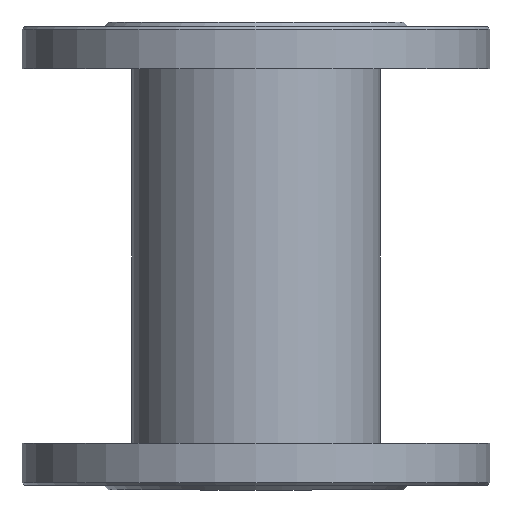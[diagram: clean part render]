
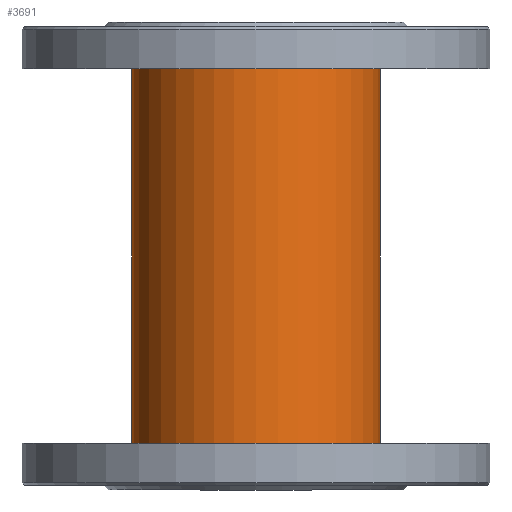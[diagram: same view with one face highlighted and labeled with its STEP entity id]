
A CAD part, front view. The second image highlights one B-rep face of the part: STEP entity #3691.
In plain terms, the highlighted cylindrical face has radius 53 mm (diameter 106 mm), a full revolution.
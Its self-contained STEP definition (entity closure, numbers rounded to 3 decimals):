
#2303=FACE_BOUND('',#5516,.T.);
#2304=FACE_BOUND('',#5517,.T.);
#2305=FACE_BOUND('',#5518,.T.);
#2509=CYLINDRICAL_SURFACE('',#15851,53.);
#2918=CIRCLE('',#15848,53.);
#2919=CIRCLE('',#15850,53.);
#3691=ADVANCED_FACE('',(#2303,#2304,#2305),#2509,.T.);
#5516=EDGE_LOOP('',(#9770));
#5517=EDGE_LOOP('',(#9771,#9772,#9773,#9774));
#5518=EDGE_LOOP('',(#9775));
#6268=B_SPLINE_CURVE_WITH_KNOTS('',3,(#32608,#32609,#32610,#32611,#32612,
#32613,#32614,#32615,#32616,#32617),.UNSPECIFIED.,.F.,.F.,(4,2,2,2,4),(0.,
0.25,0.5,0.75,1.),.UNSPECIFIED.);
#6269=B_SPLINE_CURVE_WITH_KNOTS('',3,(#32621,#32622,#32623,#32624,#32625,
#32626,#32627,#32628,#32629,#32630),.UNSPECIFIED.,.F.,.F.,(4,2,2,2,4),(0.,
0.25,0.5,0.75,1.),.UNSPECIFIED.);
#9770=ORIENTED_EDGE('',*,*,#13023,.F.);
#9771=ORIENTED_EDGE('',*,*,#13024,.F.);
#9772=ORIENTED_EDGE('',*,*,#13025,.T.);
#9773=ORIENTED_EDGE('',*,*,#13026,.F.);
#9774=ORIENTED_EDGE('',*,*,#13027,.T.);
#9775=ORIENTED_EDGE('',*,*,#13022,.F.);
#11194=VERTEX_POINT('',#32601);
#11195=VERTEX_POINT('',#32604);
#11196=VERTEX_POINT('',#32606);
#11197=VERTEX_POINT('',#32607);
#11198=VERTEX_POINT('',#32618);
#11199=VERTEX_POINT('',#32620);
#13022=EDGE_CURVE('',#11194,#11194,#2918,.T.);
#13023=EDGE_CURVE('',#11195,#11195,#2919,.T.);
#13024=EDGE_CURVE('',#11196,#11197,#13931,.T.);
#13025=EDGE_CURVE('',#11196,#11198,#6268,.T.);
#13026=EDGE_CURVE('',#11199,#11198,#13932,.T.);
#13027=EDGE_CURVE('',#11199,#11197,#6269,.T.);
#13931=LINE('',#32605,#14898);
#13932=LINE('',#32619,#14899);
#14898=VECTOR('',#18779,1.);
#14899=VECTOR('',#18780,1.);
#15848=AXIS2_PLACEMENT_3D('',#32600,#18773,#18774);
#15850=AXIS2_PLACEMENT_3D('',#32603,#18777,#18778);
#15851=AXIS2_PLACEMENT_3D('',#32631,#18781,#18782);
#18773=DIRECTION('',(0.,0.,-1.));
#18774=DIRECTION('',(0.,-1.,0.));
#18777=DIRECTION('',(0.,0.,1.));
#18778=DIRECTION('',(0.,-1.,0.));
#18779=DIRECTION('',(0.,0.,1.));
#18780=DIRECTION('',(0.,0.,-1.));
#18781=DIRECTION('',(0.,0.,1.));
#18782=DIRECTION('',(0.,-1.,0.));
#32600=CARTESIAN_POINT('',(-0.016,-32.5,-72.242));
#32601=CARTESIAN_POINT('',(-0.016,-85.5,-72.242));
#32603=CARTESIAN_POINT('',(-0.016,-32.5,87.758));
#32604=CARTESIAN_POINT('',(-0.016,-85.5,87.758));
#32605=CARTESIAN_POINT('',(-14.438,18.5,-2.001));
#32606=CARTESIAN_POINT('',(-14.438,18.5,-7.861));
#32607=CARTESIAN_POINT('',(-14.438,18.5,3.859));
#32608=CARTESIAN_POINT('',(-14.438,18.5,-7.861));
#32609=CARTESIAN_POINT('',(-13.247,18.837,-10.699));
#32610=CARTESIAN_POINT('',(-11.212,19.368,-13.104));
#32611=CARTESIAN_POINT('',(-6.133,20.209,-16.439));
#32612=CARTESIAN_POINT('',(-3.108,20.5,-17.352));
#32613=CARTESIAN_POINT('',(3.065,20.5,-17.353));
#32614=CARTESIAN_POINT('',(6.106,20.208,-16.437));
#32615=CARTESIAN_POINT('',(11.178,19.368,-13.108));
#32616=CARTESIAN_POINT('',(13.214,18.837,-10.698));
#32617=CARTESIAN_POINT('',(14.407,18.5,-7.86));
#32618=CARTESIAN_POINT('',(14.407,18.5,-7.86));
#32619=CARTESIAN_POINT('',(14.407,18.5,914.158));
#32620=CARTESIAN_POINT('',(14.407,18.5,3.859));
#32621=CARTESIAN_POINT('',(14.407,18.5,3.859));
#32622=CARTESIAN_POINT('',(13.213,18.837,6.697));
#32623=CARTESIAN_POINT('',(11.181,19.368,9.106));
#32624=CARTESIAN_POINT('',(6.101,20.209,12.44));
#32625=CARTESIAN_POINT('',(3.075,20.5,13.351));
#32626=CARTESIAN_POINT('',(-3.099,20.5,13.355));
#32627=CARTESIAN_POINT('',(-6.138,20.208,12.436));
#32628=CARTESIAN_POINT('',(-11.211,19.368,9.107));
#32629=CARTESIAN_POINT('',(-13.246,18.837,6.697));
#32630=CARTESIAN_POINT('',(-14.438,18.5,3.859));
#32631=CARTESIAN_POINT('',(-0.016,-32.5,914.158));
